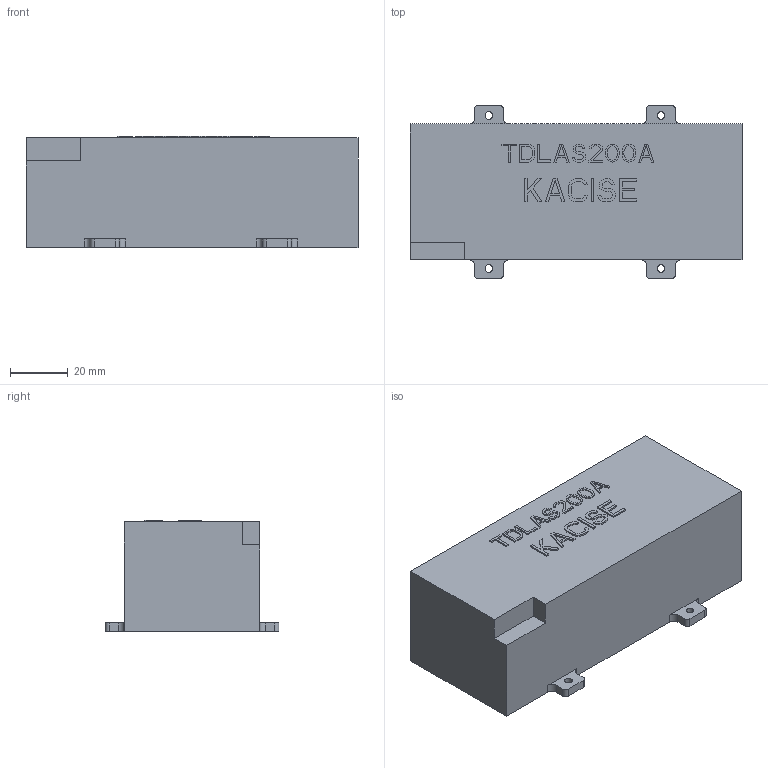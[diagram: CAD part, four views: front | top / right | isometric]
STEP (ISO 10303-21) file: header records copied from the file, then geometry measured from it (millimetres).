
FILE_DESCRIPTION((''),'2;1');
FILE_NAME('PRT0086','2025-12-31T10:07:19',('28740194'),(''),'CREO PARAMETRIC BY PTC INC, 2024063','CREO PARAMETRIC BY PTC INC, 2024063','');
FILE_SCHEMA(('CONFIG_CONTROL_DESIGN'));
Length unit declared in the file: millimetre
Products named in the file (1): PRT0086
Bounding box: 115 x 60.15 x 38.5 mm (x, y, z)
Volume: 205314.4 mm3; surface area: 24081.3 mm2
Topology: 1 solids, 1 shells, 435 faces, 1236 edges, 824 vertices
Faces by surface type: plane 411, cylinder 24
Entity records: 13932 total; most frequent: CARTESIAN_POINT 2495, ORIENTED_EDGE 2472, DIRECTION 2154, EDGE_CURVE 1236, VECTOR 1188, LINE 1188, VERTEX_POINT 824, AXIS2_PLACEMENT_3D 483
